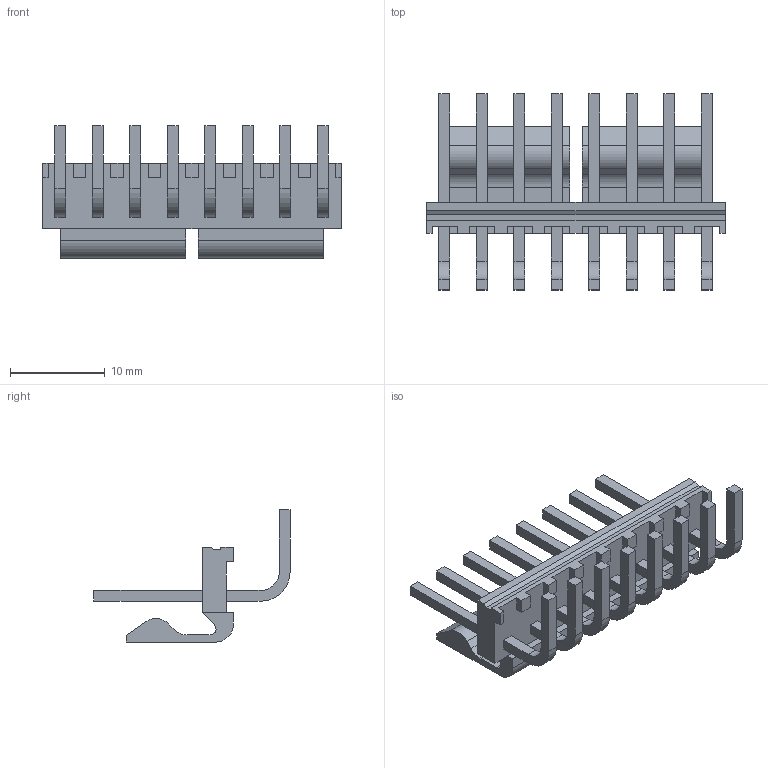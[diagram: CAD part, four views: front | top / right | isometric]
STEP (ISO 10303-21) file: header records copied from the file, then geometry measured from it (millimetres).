
FILE_DESCRIPTION((''),'2;1');
FILE_NAME('417920534','2015-04-21T',('me'),(''),'PRO/ENGINEER BY PARAMETRIC TECHNOLOGY CORPORATION, 2011490','PRO/ENGINEER BY PARAMETRIC TECHNOLOGY CORPORATION, 2011490','');
FILE_SCHEMA(('CONFIG_CONTROL_DESIGN'));
Length unit declared in the file: inch
Products named in the file (1): 417920534
Bounding box: 31.55 x 20.71 x 13.97 mm (x, y, z)
Volume: 1336.4 mm3; surface area: 2372.9 mm2
Topology: 1 solids, 1 shells, 186 faces, 512 edges, 344 vertices
Faces by surface type: plane 162, cylinder 24
Entity records: 5873 total; most frequent: CARTESIAN_POINT 1027, ORIENTED_EDGE 992, DIRECTION 950, EDGE_CURVE 496, VECTOR 448, LINE 448, VERTEX_POINT 328, AXIS2_PLACEMENT_3D 251
